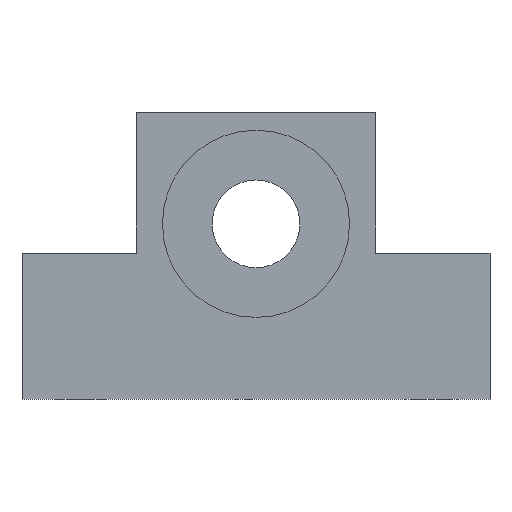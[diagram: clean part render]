
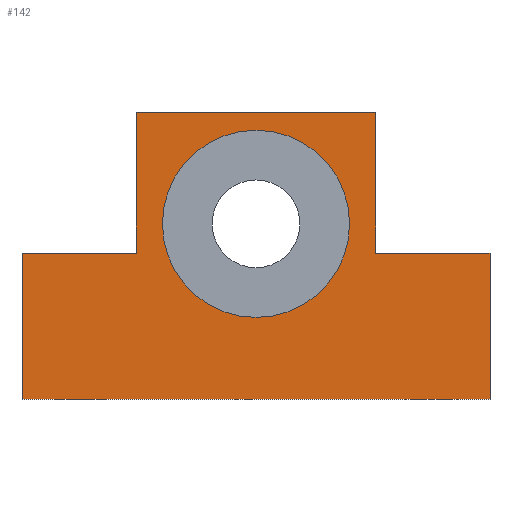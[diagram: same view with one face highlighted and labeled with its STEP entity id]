
A CAD part, left-side view. The second image highlights one B-rep face of the part: STEP entity #142.
In plain terms, the highlighted planar face has unit normal (-1, 0, 0).
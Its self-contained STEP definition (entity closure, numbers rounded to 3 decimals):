
#58=LINE('',#482,#82);
#59=LINE('',#485,#83);
#60=LINE('',#487,#84);
#61=LINE('',#489,#85);
#62=LINE('',#491,#86);
#63=LINE('',#493,#87);
#64=LINE('',#495,#88);
#65=LINE('',#497,#89);
#82=VECTOR('',#403,1.);
#83=VECTOR('',#404,1.);
#84=VECTOR('',#405,1.);
#85=VECTOR('',#406,1.);
#86=VECTOR('',#407,1.);
#87=VECTOR('',#408,1.);
#88=VECTOR('',#409,1.);
#89=VECTOR('',#410,1.);
#128=PLANE('',#363);
#142=ADVANCED_FACE('',(#168,#169),#128,.F.);
#168=FACE_BOUND('',#193,.T.);
#169=FACE_BOUND('',#194,.T.);
#193=EDGE_LOOP('',(#223));
#194=EDGE_LOOP('',(#224,#225,#226,#227,#228,#229,#230,#231));
#223=ORIENTED_EDGE('',*,*,#313,.T.);
#224=ORIENTED_EDGE('',*,*,#314,.F.);
#225=ORIENTED_EDGE('',*,*,#315,.F.);
#226=ORIENTED_EDGE('',*,*,#316,.F.);
#227=ORIENTED_EDGE('',*,*,#317,.F.);
#228=ORIENTED_EDGE('',*,*,#318,.F.);
#229=ORIENTED_EDGE('',*,*,#319,.F.);
#230=ORIENTED_EDGE('',*,*,#320,.F.);
#231=ORIENTED_EDGE('',*,*,#321,.F.);
#287=VERTEX_POINT('',#481);
#288=VERTEX_POINT('',#483);
#289=VERTEX_POINT('',#484);
#290=VERTEX_POINT('',#486);
#291=VERTEX_POINT('',#488);
#292=VERTEX_POINT('',#490);
#293=VERTEX_POINT('',#492);
#294=VERTEX_POINT('',#494);
#295=VERTEX_POINT('',#496);
#313=EDGE_CURVE('GENERATED CIRCLE',#287,#287,#347,.T.);
#314=EDGE_CURVE('LINE',#288,#289,#58,.T.);
#315=EDGE_CURVE('LINE',#290,#288,#59,.T.);
#316=EDGE_CURVE('LINE',#291,#290,#60,.T.);
#317=EDGE_CURVE('LINE',#292,#291,#61,.T.);
#318=EDGE_CURVE('LINE',#293,#292,#62,.T.);
#319=EDGE_CURVE('LINE',#294,#293,#63,.T.);
#320=EDGE_CURVE('LINE',#295,#294,#64,.T.);
#321=EDGE_CURVE('LINE',#289,#295,#65,.T.);
#347=CIRCLE('',#362,16.);
#362=AXIS2_PLACEMENT_3D('',#480,#401,#402);
#363=AXIS2_PLACEMENT_3D('',#498,#411,#412);
#401=DIRECTION('',(1.,0.,0.));
#402=DIRECTION('',(0.,0.,-1.));
#403=DIRECTION('',(0.,-1.,0.));
#404=DIRECTION('',(0.,0.,1.));
#405=DIRECTION('',(0.,-1.,0.));
#406=DIRECTION('',(0.,0.,1.));
#407=DIRECTION('',(0.,1.,0.));
#408=DIRECTION('',(0.,0.,-1.));
#409=DIRECTION('',(0.,-1.,0.));
#410=DIRECTION('',(0.,0.,-1.));
#411=DIRECTION('',(1.,0.,0.));
#412=DIRECTION('',(0.,-1.,0.));
#480=CARTESIAN_POINT('',(-10.,0.,30.));
#481=CARTESIAN_POINT('',(-10.,0.,14.));
#482=CARTESIAN_POINT('',(-10.,-20.5,49.));
#483=CARTESIAN_POINT('',(-10.,20.5,49.));
#484=CARTESIAN_POINT('',(-10.,-20.5,49.));
#485=CARTESIAN_POINT('',(-10.,20.5,37.5));
#486=CARTESIAN_POINT('',(-10.,20.5,25.));
#487=CARTESIAN_POINT('',(-10.,30.25,25.));
#488=CARTESIAN_POINT('',(-10.,40.,25.));
#489=CARTESIAN_POINT('',(-10.,40.,12.5));
#490=CARTESIAN_POINT('',(-10.,40.,0.));
#491=CARTESIAN_POINT('',(-10.,0.,0.));
#492=CARTESIAN_POINT('',(-10.,-40.,0.));
#493=CARTESIAN_POINT('',(-10.,-40.,12.5));
#494=CARTESIAN_POINT('',(-10.,-40.,25.));
#495=CARTESIAN_POINT('',(-10.,-30.25,25.));
#496=CARTESIAN_POINT('',(-10.,-20.5,25.));
#497=CARTESIAN_POINT('',(-10.,-20.5,37.5));
#498=CARTESIAN_POINT('',(-10.,0.,0.));
